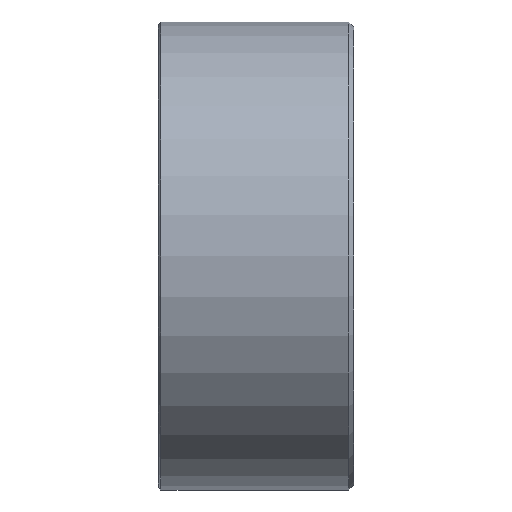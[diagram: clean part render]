
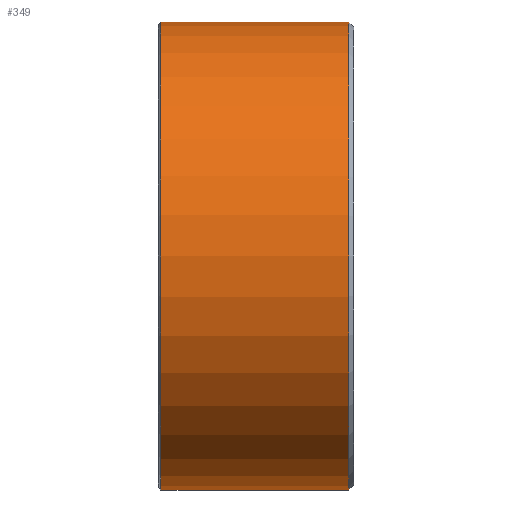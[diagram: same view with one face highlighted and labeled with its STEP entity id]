
A CAD part, front view. The second image highlights one B-rep face of the part: STEP entity #349.
In plain terms, the highlighted cylindrical face has radius 24 mm (diameter 48 mm), a partial arc.
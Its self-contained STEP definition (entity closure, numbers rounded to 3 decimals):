
#137 = VERTEX_POINT ( 'NONE', #603 ) ;
#142 = VERTEX_POINT ( 'NONE', #605 ) ;
#210 = VERTEX_POINT ( 'NONE', #736 ) ;
#224 = VERTEX_POINT ( 'NONE', #787 ) ;
#308 = EDGE_CURVE ( 'NONE', #210, #137, #944, .T. ) ;
#335 = EDGE_LOOP ( 'NONE', ( #350, #348, #340, #337 ) ) ;
#337 = ORIENTED_EDGE ( 'NONE', *, *, #351, .T. ) ;
#340 = ORIENTED_EDGE ( 'NONE', *, *, #353, .T. ) ;
#348 = ORIENTED_EDGE ( 'NONE', *, *, #356, .T. ) ;
#349 = ADVANCED_FACE ( 'NONE', ( #1047 ), #1054, .T. ) ;
#350 = ORIENTED_EDGE ( 'NONE', *, *, #308, .F. ) ;
#351 = EDGE_CURVE ( 'NONE', #142, #137, #996, .T. ) ;
#353 = EDGE_CURVE ( 'NONE', #224, #142, #1040, .T. ) ;
#356 = EDGE_CURVE ( 'NONE', #210, #224, #1041, .T. ) ;
#603 = CARTESIAN_POINT ( 'NONE',  ( 0.25, 0., -24. ) ) ;
#605 = CARTESIAN_POINT ( 'NONE',  ( 0.25, 0., 24. ) ) ;
#736 = CARTESIAN_POINT ( 'NONE',  ( 19.5, 0., -24. ) ) ;
#787 = CARTESIAN_POINT ( 'NONE',  ( 19.5, 0., 24. ) ) ;
#937 = DIRECTION ( 'NONE',  ( -1., 0., 0. ) ) ;
#938 = VECTOR ( 'NONE', #937, 1000. ) ;
#943 = CARTESIAN_POINT ( 'NONE',  ( 0., 0., -24. ) ) ;
#944 = LINE ( 'NONE', #943, #938 ) ;
#996 = CIRCLE ( 'NONE', #1055, 24. ) ;
#1025 = CARTESIAN_POINT ( 'NONE',  ( 19.5, 0., 0. ) ) ;
#1031 = AXIS2_PLACEMENT_3D ( 'NONE', #1025, #1073, #1072 ) ;
#1032 = DIRECTION ( 'NONE',  ( -1., 0., 0. ) ) ;
#1033 = VECTOR ( 'NONE', #1032, 1000. ) ;
#1034 = CARTESIAN_POINT ( 'NONE',  ( 0., 0., 24. ) ) ;
#1037 = DIRECTION ( 'NONE',  ( 0., 0., -1. ) ) ;
#1038 = DIRECTION ( 'NONE',  ( 1., 0., 0. ) ) ;
#1039 = CARTESIAN_POINT ( 'NONE',  ( 0.25, 0., 0. ) ) ;
#1040 = LINE ( 'NONE', #1034, #1033 ) ;
#1041 = CIRCLE ( 'NONE', #1031, 24. ) ;
#1044 = DIRECTION ( 'NONE',  ( 0., 0., 1. ) ) ;
#1047 = FACE_OUTER_BOUND ( 'NONE', #335, .T. ) ;
#1048 = AXIS2_PLACEMENT_3D ( 'NONE', #1057, #1056, #1044 ) ;
#1054 = CYLINDRICAL_SURFACE ( 'NONE', #1048, 24. ) ;
#1055 = AXIS2_PLACEMENT_3D ( 'NONE', #1039, #1038, #1037 ) ;
#1056 = DIRECTION ( 'NONE',  ( -1., 0., 0. ) ) ;
#1057 = CARTESIAN_POINT ( 'NONE',  ( 0., 0., 0. ) ) ;
#1072 = DIRECTION ( 'NONE',  ( 0., 0., 1. ) ) ;
#1073 = DIRECTION ( 'NONE',  ( -1., 0., 0. ) ) ;
